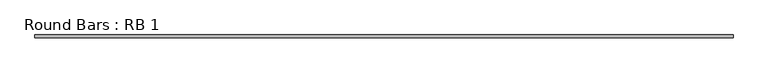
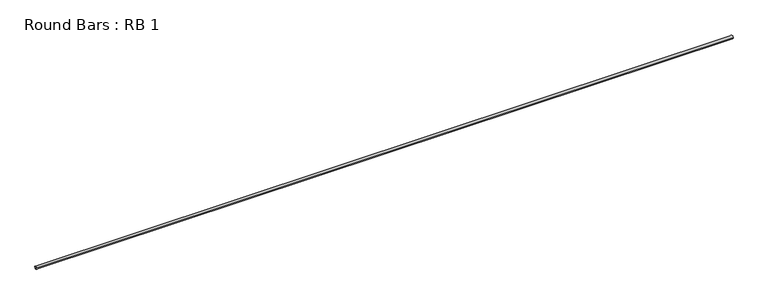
"""IFC4 building model written with IfcOpenShell, lengths in millimetres: beam geometry, Round Bars : RB 1."""

from ifc_helpers import new_model, si_unit, point, frame, origin, origin_2d, place, context, project, spatial, circle_curve, trimmed, segment, composite_curve, outline, extrude, source, transform, mapped, element, save


def round_bars_rb_1_26d8f1e4(model_context):
    return source(origin(), model_context, "Body", "SweptSolid", [
        extrude(outline(composite_curve([segment(trimmed(circle_curve(origin_2d(), 12.7), [point((12.7, 0.0))], [point((-12.7, 0.0))], False, "CARTESIAN"), True, "CONTINUOUS"), segment(trimmed(circle_curve(origin_2d(), 12.7), [point((-12.7, 0.0))], [point((12.7, 0.0))], False, "CARTESIAN"), True, "CONTINUOUS")], self_intersect=False)), frame((-3223.5675668, 0.0, 0.0), z_axis=(1.0, 0.0, 0.0), x_axis=(0.0, 1.0, 0.0)), (0.0, 0.0, 1.0), 6440.8101566),
    ])


if __name__ == "__main__":
    model = new_model("IFC4")
    model_context = context("Model", 3, world=origin())
    ifc_project = project(units=[si_unit("LENGTHUNIT", "METRE", prefix="MILLI")], contexts=[model_context])
    site = spatial("IfcSite", under=ifc_project)
    building = spatial("IfcBuilding", under=site)
    placement = place(None, origin())
    round_bars_rb_1_shape = round_bars_rb_1_26d8f1e4(model_context)
    element("IfcBeam", 1, ObjectType="Round Bars : RB 1", at=placement, inside=building, context=model_context, shape_type="MappedRepresentation", body=[
        mapped(round_bars_rb_1_shape, transform((0.0, 0.0, 0.0), x_axis=(1.0, 0.0, 0.0), y_axis=(0.0, 1.0, 0.0), z_axis=(0.0, 0.0, 1.0))),
    ])
    save(model, "model.ifc")
